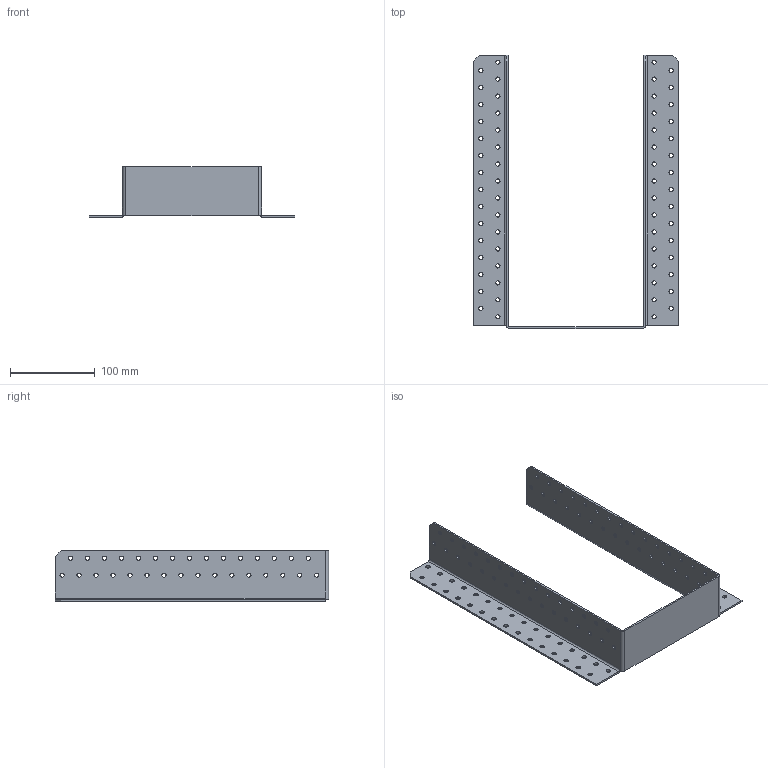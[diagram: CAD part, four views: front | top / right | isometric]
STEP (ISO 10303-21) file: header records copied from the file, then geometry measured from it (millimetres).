
FILE_DESCRIPTION (( 'STEP AP203' ), '1' );
FILE_NAME ('405202.STEP', '2021-04-17T17:30:06', ( '' ), ( '' ), 'SwSTEP 2.0', 'SolidWorks 2013', '' );
FILE_SCHEMA (( 'CONFIG_CONTROL_DESIGN' ));
Length unit declared in the file: millimetre
Products named in the file (1): 405202
Bounding box: 242 x 322 x 60 mm (x, y, z)
Volume: 138414 mm3; surface area: 146033.5 mm2
Topology: 1 solids, 1 shells, 292 faces, 840 edges, 550 vertices
Faces by surface type: cylinder 256, plane 36
Entity records: 10411 total; most frequent: DIRECTION 1940, CARTESIAN_POINT 1683, ORIENTED_EDGE 1680, EDGE_CURVE 840, AXIS2_PLACEMENT_3D 807, VERTEX_POINT 550, EDGE_LOOP 540, CIRCLE 514
